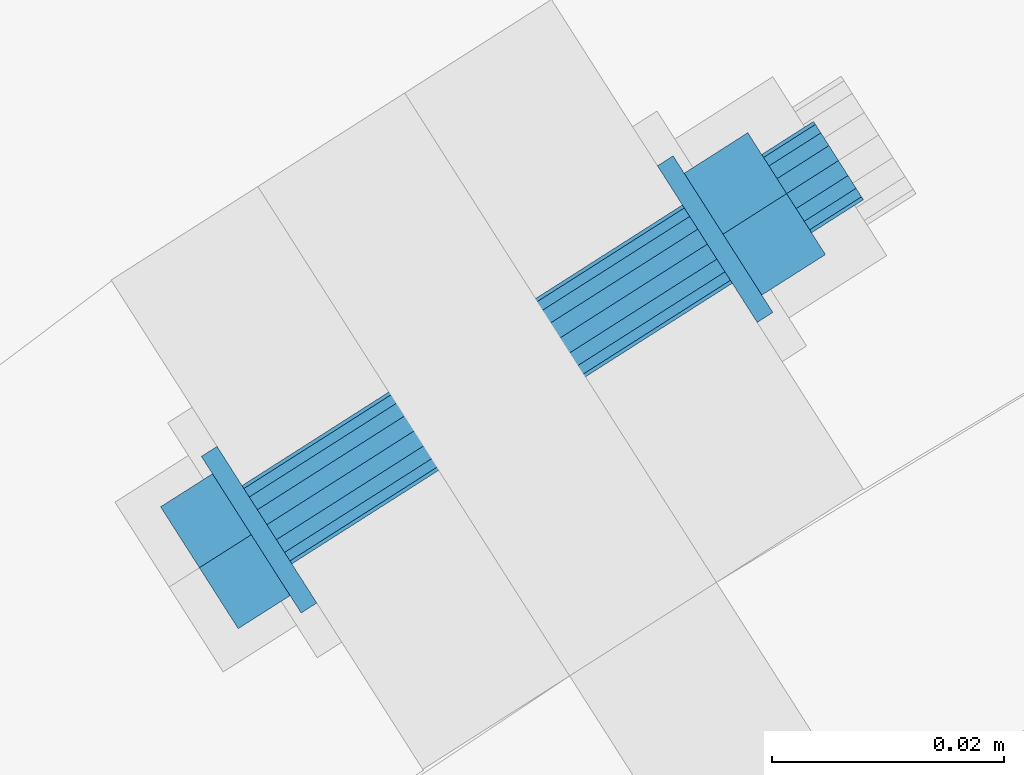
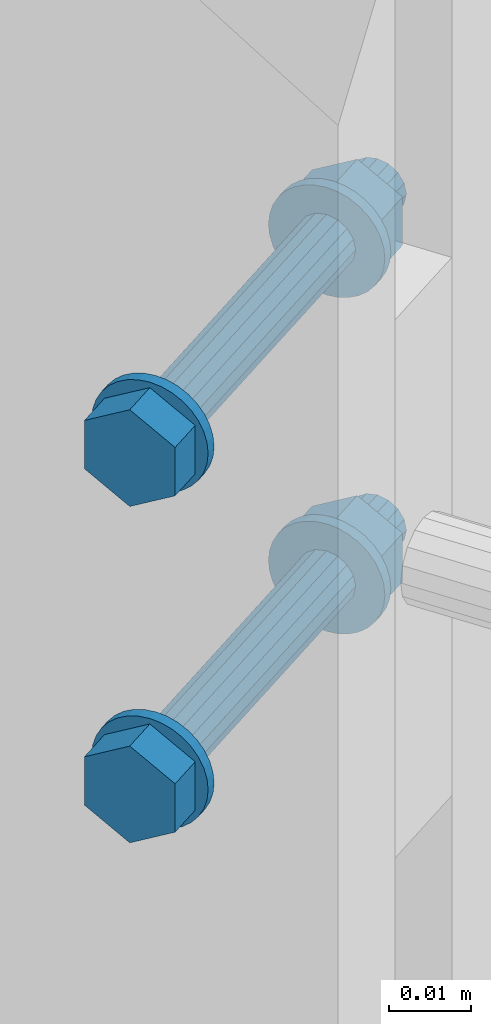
# One storey, part 257 of 296: 1 mechanical fastener.
"""IFC2X3 building model written with IfcOpenShell, lengths in millimetres."""

from ifc_helpers import new_model, entity, si_unit, converted_unit, origin_with_axes, place, context, project, spatial, faceted_brep, element, save


model = new_model("IFC2X3")

# Units and contexts
model_context = context("Model", 3, precision=1e-09, world=origin_with_axes())
ifc_project = project(units=[si_unit("LENGTHUNIT", "METRE", prefix="MILLI"), si_unit("AREAUNIT", "SQUARE_METRE"), si_unit("VOLUMEUNIT", "CUBIC_METRE"), converted_unit("PLANEANGLEUNIT", "DEGREE", entity("IfcPlaneAngleMeasure", 0.01745329), si_unit("PLANEANGLEUNIT", "RADIAN"), dimensions=[0, 0, 0, 0, 0, 0, 0])], contexts=[model_context])

# Site, building, storey
site_placement = place(None, origin_with_axes())
site = spatial("IfcSite", under=ifc_project, at=site_placement, Name="TZD-S?d | Treppenhausgel?nder", CompositionType="ELEMENT")
building_placement = place(site_placement, origin_with_axes())
building = spatial("IfcBuilding", under=site, at=building_placement, Name="Struktur 1", CompositionType="ELEMENT")
storey_placement = place(building_placement, origin_with_axes())
storey = spatial("IfcBuildingStorey", under=building, at=storey_placement, Name="Default Storey", CompositionType="ELEMENT", Elevation=0.0)

# Mechanical fastener
mechanical_fastener_placement = place(None, origin_with_axes())
element("IfcMechanicalFastener", 1, at=mechanical_fastener_placement, inside=storey, ObjectType="-", NominalDiameter=8.0, NominalLength=60.0, context=model_context, shape_type="Brep", body=[
    faceted_brep([(1293.850040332, 2415.538633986, 8170.000999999), (1295.199466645, 2416.398313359, 8170.000999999), (1295.282059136, 2416.268669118, 8168.440277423), (1293.932632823, 2415.408989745, 8168.440277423), (1295.526662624, 2415.88471855, 8166.93953254), (1294.177236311, 2415.025039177, 8166.93953254), (1295.923877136, 2415.26121666, 8165.556438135), (1294.574450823, 2414.401537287, 8165.556438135), (1296.45843794, 2414.422124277, 8164.34414575), (1295.109011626, 2413.562444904, 8164.34414575), (1297.109802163, 2413.399687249, 8163.349243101), (1295.76037585, 2412.540007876, 8163.349243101), (1297.852938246, 2412.233197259, 8162.609963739), (1296.503511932, 2411.373517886, 8162.609963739), (1298.659287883, 2410.967481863, 8162.154717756), (1297.30986157, 2410.107802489, 8162.154717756), (1299.497863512, 2409.651181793, 8162.000999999), (1298.148437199, 2408.791502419, 8162.000999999), (1300.336439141, 2408.334881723, 8162.154717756), (1298.987012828, 2407.475202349, 8162.154717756), (1301.142788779, 2407.069166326, 8162.609963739), (1299.793362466, 2406.209486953, 8162.609963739), (1301.885924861, 2405.902676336, 8163.349243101), (1300.536498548, 2405.042996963, 8163.349243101), (1302.537289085, 2404.880239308, 8164.34414575), (1301.187862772, 2404.020559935, 8164.34414575), (1303.071849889, 2404.041146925, 8165.556438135), (1301.722423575, 2403.181467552, 8165.556438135), (1303.4690644, 2403.417645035, 8166.93953254), (1302.119638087, 2402.557965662, 8166.93953254), (1303.713667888, 2403.033694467, 8168.440277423), (1302.364241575, 2402.174015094, 8168.440277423), (1303.796260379, 2402.904050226, 8170.000999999), (1302.446834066, 2402.044370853, 8170.000999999), (1303.713667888, 2403.033694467, 8171.561722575), (1302.364241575, 2402.174015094, 8171.561722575), (1303.4690644, 2403.417645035, 8173.062467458), (1302.119638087, 2402.557965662, 8173.062467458), (1303.071849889, 2404.041146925, 8174.445561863), (1301.722423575, 2403.181467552, 8174.445561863), (1302.537289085, 2404.880239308, 8175.657854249), (1301.187862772, 2404.020559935, 8175.657854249), (1301.885924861, 2405.902676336, 8176.652756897), (1300.536498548, 2405.042996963, 8176.652756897), (1301.142788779, 2407.069166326, 8177.392036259), (1299.793362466, 2406.209486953, 8177.392036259), (1300.336439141, 2408.334881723, 8177.847282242), (1298.987012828, 2407.475202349, 8177.847282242), (1299.497863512, 2409.651181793, 8178.000999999), (1298.148437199, 2408.791502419, 8178.000999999), (1298.659287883, 2410.967481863, 8177.847282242), (1297.30986157, 2410.107802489, 8177.847282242), (1297.852938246, 2412.233197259, 8177.392036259), (1296.503511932, 2411.373517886, 8177.392036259), (1297.109802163, 2413.399687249, 8176.652756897), (1295.76037585, 2412.540007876, 8176.652756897), (1296.45843794, 2414.422124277, 8175.657854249), (1295.109011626, 2413.562444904, 8175.657854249), (1295.923877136, 2415.26121666, 8174.445561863), (1294.574450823, 2414.401537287, 8174.445561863), (1295.526662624, 2415.88471855, 8173.062467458), (1294.177236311, 2415.025039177, 8173.062467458), (1295.282059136, 2416.268669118, 8171.561722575), (1293.932632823, 2415.408989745, 8171.561722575)], [[[0, 1, 2, 3]], [[3, 2, 4, 5]], [[5, 4, 6, 7]], [[7, 6, 8, 9]], [[9, 8, 10, 11]], [[11, 10, 12, 13]], [[13, 12, 14, 15]], [[15, 14, 16, 17]], [[17, 16, 18, 19]], [[19, 18, 20, 21]], [[21, 20, 22, 23]], [[23, 22, 24, 25]], [[25, 24, 26, 27]], [[27, 26, 28, 29]], [[29, 28, 30, 31]], [[31, 30, 32, 33]], [[33, 32, 34, 35]], [[35, 34, 36, 37]], [[37, 36, 38, 39]], [[39, 38, 40, 41]], [[41, 40, 42, 43]], [[43, 42, 44, 45]], [[45, 44, 46, 47]], [[47, 46, 48, 49]], [[49, 48, 50, 51]], [[51, 50, 52, 53]], [[53, 52, 54, 55]], [[55, 54, 56, 57]], [[57, 56, 58, 59]], [[59, 58, 60, 61]], [[61, 60, 62, 63]], [[63, 62, 1, 0]], [[0, 3, 5, 7, 9, 11, 13, 15, 17, 19, 21, 23, 25, 27, 29, 31, 33, 35, 37, 39, 41, 43, 45, 47, 49, 51, 53, 55, 57, 59, 61, 63]], [[1, 62, 60, 58, 56, 54, 52, 50, 48, 46, 44, 42, 40, 38, 36, 34, 32, 30, 28, 26, 24, 22, 20, 18, 16, 14, 12, 10, 8, 6, 4, 2]]]),
    faceted_brep([(1293.850040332, 2415.538633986, 8120.000999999), (1295.199466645, 2416.398313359, 8120.000999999), (1295.282059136, 2416.268669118, 8118.440277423), (1293.932632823, 2415.408989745, 8118.440277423), (1295.526662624, 2415.88471855, 8116.93953254), (1294.177236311, 2415.025039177, 8116.93953254), (1295.923877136, 2415.26121666, 8115.556438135), (1294.574450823, 2414.401537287, 8115.556438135), (1296.45843794, 2414.422124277, 8114.34414575), (1295.109011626, 2413.562444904, 8114.34414575), (1297.109802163, 2413.399687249, 8113.349243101), (1295.76037585, 2412.540007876, 8113.349243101), (1297.852938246, 2412.233197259, 8112.609963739), (1296.503511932, 2411.373517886, 8112.609963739), (1298.659287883, 2410.967481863, 8112.154717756), (1297.30986157, 2410.107802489, 8112.154717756), (1299.497863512, 2409.651181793, 8112.000999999), (1298.148437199, 2408.791502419, 8112.000999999), (1300.336439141, 2408.334881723, 8112.154717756), (1298.987012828, 2407.475202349, 8112.154717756), (1301.142788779, 2407.069166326, 8112.609963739), (1299.793362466, 2406.209486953, 8112.609963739), (1301.885924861, 2405.902676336, 8113.349243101), (1300.536498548, 2405.042996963, 8113.349243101), (1302.537289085, 2404.880239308, 8114.34414575), (1301.187862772, 2404.020559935, 8114.34414575), (1303.071849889, 2404.041146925, 8115.556438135), (1301.722423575, 2403.181467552, 8115.556438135), (1303.4690644, 2403.417645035, 8116.93953254), (1302.119638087, 2402.557965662, 8116.93953254), (1303.713667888, 2403.033694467, 8118.440277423), (1302.364241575, 2402.174015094, 8118.440277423), (1303.796260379, 2402.904050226, 8120.000999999), (1302.446834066, 2402.044370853, 8120.000999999), (1303.713667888, 2403.033694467, 8121.561722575), (1302.364241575, 2402.174015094, 8121.561722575), (1303.4690644, 2403.417645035, 8123.062467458), (1302.119638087, 2402.557965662, 8123.062467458), (1303.071849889, 2404.041146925, 8124.445561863), (1301.722423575, 2403.181467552, 8124.445561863), (1302.537289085, 2404.880239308, 8125.657854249), (1301.187862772, 2404.020559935, 8125.657854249), (1301.885924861, 2405.902676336, 8126.652756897), (1300.536498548, 2405.042996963, 8126.652756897), (1301.142788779, 2407.069166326, 8127.392036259), (1299.793362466, 2406.209486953, 8127.392036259), (1300.336439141, 2408.334881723, 8127.847282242), (1298.987012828, 2407.475202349, 8127.847282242), (1299.497863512, 2409.651181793, 8128.000999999), (1298.148437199, 2408.791502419, 8128.000999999), (1298.659287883, 2410.967481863, 8127.847282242), (1297.30986157, 2410.107802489, 8127.847282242), (1297.852938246, 2412.233197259, 8127.392036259), (1296.503511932, 2411.373517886, 8127.392036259), (1297.109802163, 2413.399687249, 8126.652756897), (1295.76037585, 2412.540007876, 8126.652756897), (1296.45843794, 2414.422124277, 8125.657854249), (1295.109011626, 2413.562444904, 8125.657854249), (1295.923877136, 2415.26121666, 8124.445561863), (1294.574450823, 2414.401537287, 8124.445561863), (1295.526662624, 2415.88471855, 8123.062467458), (1294.177236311, 2415.025039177, 8123.062467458), (1295.282059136, 2416.268669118, 8121.561722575), (1293.932632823, 2415.408989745, 8121.561722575)], [[[0, 1, 2, 3]], [[3, 2, 4, 5]], [[5, 4, 6, 7]], [[7, 6, 8, 9]], [[9, 8, 10, 11]], [[11, 10, 12, 13]], [[13, 12, 14, 15]], [[15, 14, 16, 17]], [[17, 16, 18, 19]], [[19, 18, 20, 21]], [[21, 20, 22, 23]], [[23, 22, 24, 25]], [[25, 24, 26, 27]], [[27, 26, 28, 29]], [[29, 28, 30, 31]], [[31, 30, 32, 33]], [[33, 32, 34, 35]], [[35, 34, 36, 37]], [[37, 36, 38, 39]], [[39, 38, 40, 41]], [[41, 40, 42, 43]], [[43, 42, 44, 45]], [[45, 44, 46, 47]], [[47, 46, 48, 49]], [[49, 48, 50, 51]], [[51, 50, 52, 53]], [[53, 52, 54, 55]], [[55, 54, 56, 57]], [[57, 56, 58, 59]], [[59, 58, 60, 61]], [[61, 60, 62, 63]], [[63, 62, 1, 0]], [[0, 3, 5, 7, 9, 11, 13, 15, 17, 19, 21, 23, 25, 27, 29, 31, 33, 35, 37, 39, 41, 43, 45, 47, 49, 51, 53, 55, 57, 59, 61, 63]], [[1, 62, 60, 58, 56, 54, 52, 50, 48, 46, 44, 42, 40, 38, 36, 34, 32, 30, 28, 26, 24, 22, 20, 18, 16, 14, 12, 10, 8, 6, 4, 2]]]),
    faceted_brep([(1301.494052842, 2403.539937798, 8166.405999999), (1297.024078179, 2400.692249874, 8166.405999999), (1293.678462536, 2405.943814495, 8162.810999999), (1298.148437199, 2408.791502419, 8162.810999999), (1290.332846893, 2411.195379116, 8166.405999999), (1294.802821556, 2414.043067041, 8166.405999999), (1290.332846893, 2411.195379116, 8173.595999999), (1294.802821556, 2414.043067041, 8173.595999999), (1293.678462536, 2405.943814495, 8177.190999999), (1298.148437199, 2408.791502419, 8177.190999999), (1297.024078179, 2400.692249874, 8173.595999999), (1301.494052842, 2403.539937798, 8173.595999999)], [[[0, 1, 2, 3]], [[3, 2, 4, 5]], [[5, 4, 6, 7]], [[7, 6, 8, 9]], [[9, 8, 10, 11]], [[11, 10, 1, 0]], [[4, 2, 1, 10, 8, 6]], [[0, 3, 5, 7, 9, 11]]]),
    faceted_brep([(1301.494052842, 2403.539937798, 8116.405999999), (1297.024078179, 2400.692249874, 8116.405999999), (1293.678462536, 2405.943814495, 8112.810999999), (1298.148437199, 2408.791502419, 8112.810999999), (1290.332846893, 2411.195379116, 8116.405999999), (1294.802821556, 2414.043067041, 8116.405999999), (1290.332846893, 2411.195379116, 8123.595999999), (1294.802821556, 2414.043067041, 8123.595999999), (1293.678462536, 2405.943814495, 8127.190999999), (1298.148437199, 2408.791502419, 8127.190999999), (1297.024078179, 2400.692249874, 8123.595999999), (1301.494052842, 2403.539937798, 8123.595999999)], [[[0, 1, 2, 3]], [[3, 2, 4, 5]], [[5, 4, 6, 7]], [[7, 6, 8, 9]], [[9, 8, 10, 11]], [[11, 10, 1, 0]], [[4, 2, 1, 10, 8, 6]], [[0, 3, 5, 7, 9, 11]]]),
    faceted_brep([(1297.348665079, 2413.024747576, 8170.000999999), (1335.30128014, 2437.203229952, 8170.000999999), (1335.46487813, 2436.946432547, 8168.47026627), (1297.512263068, 2412.767950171, 8168.47026627), (1335.930765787, 2436.21513541, 8167.172572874), (1297.978150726, 2412.036653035, 8167.172572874), (1336.62801594, 2435.120671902, 8166.305481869), (1298.675400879, 2410.942189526, 8166.305481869), (1337.450478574, 2433.829664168, 8166.000999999), (1299.497863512, 2409.651181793, 8166.000999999), (1338.272941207, 2432.538656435, 8166.305481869), (1300.320326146, 2408.360174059, 8166.305481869), (1338.97019136, 2431.444192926, 8167.172572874), (1301.017576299, 2407.265710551, 8167.172572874), (1339.436079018, 2430.71289579, 8168.47026627), (1301.483463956, 2406.534413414, 8168.47026627), (1339.599677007, 2430.456098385, 8170.000999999), (1301.647061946, 2406.277616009, 8170.000999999), (1339.436079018, 2430.71289579, 8171.531733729), (1301.483463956, 2406.534413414, 8171.531733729), (1338.97019136, 2431.444192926, 8172.829427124), (1301.017576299, 2407.265710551, 8172.829427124), (1338.272941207, 2432.538656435, 8173.696518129), (1300.320326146, 2408.360174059, 8173.696518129), (1337.450478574, 2433.829664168, 8174.000999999), (1299.497863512, 2409.651181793, 8174.000999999), (1336.62801594, 2435.120671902, 8173.696518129), (1298.675400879, 2410.942189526, 8173.696518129), (1335.930765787, 2436.21513541, 8172.829427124), (1297.978150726, 2412.036653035, 8172.829427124), (1335.46487813, 2436.946432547, 8171.531733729), (1297.512263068, 2412.767950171, 8171.531733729)], [[[0, 1, 2, 3]], [[3, 2, 4, 5]], [[5, 4, 6, 7]], [[7, 6, 8, 9]], [[9, 8, 10, 11]], [[11, 10, 12, 13]], [[13, 12, 14, 15]], [[15, 14, 16, 17]], [[17, 16, 18, 19]], [[19, 18, 20, 21]], [[21, 20, 22, 23]], [[23, 22, 24, 25]], [[25, 24, 26, 27]], [[27, 26, 28, 29]], [[29, 28, 30, 31]], [[31, 30, 1, 0]], [[0, 3, 5, 7, 9, 11, 13, 15, 17, 19, 21, 23, 25, 27, 29, 31]], [[1, 30, 28, 26, 24, 22, 20, 18, 16, 14, 12, 10, 8, 6, 4, 2]]]),
    faceted_brep([(1297.348665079, 2413.024747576, 8120.000999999), (1335.30128014, 2437.203229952, 8120.000999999), (1335.46487813, 2436.946432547, 8118.47026627), (1297.512263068, 2412.767950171, 8118.47026627), (1335.930765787, 2436.21513541, 8117.172572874), (1297.978150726, 2412.036653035, 8117.172572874), (1336.62801594, 2435.120671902, 8116.305481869), (1298.675400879, 2410.942189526, 8116.305481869), (1337.450478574, 2433.829664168, 8116.000999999), (1299.497863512, 2409.651181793, 8116.000999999), (1338.272941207, 2432.538656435, 8116.305481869), (1300.320326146, 2408.360174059, 8116.305481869), (1338.97019136, 2431.444192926, 8117.172572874), (1301.017576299, 2407.265710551, 8117.172572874), (1339.436079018, 2430.71289579, 8118.47026627), (1301.483463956, 2406.534413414, 8118.47026627), (1339.599677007, 2430.456098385, 8120.000999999), (1301.647061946, 2406.277616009, 8120.000999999), (1339.436079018, 2430.71289579, 8121.531733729), (1301.483463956, 2406.534413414, 8121.531733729), (1338.97019136, 2431.444192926, 8122.829427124), (1301.017576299, 2407.265710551, 8122.829427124), (1338.272941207, 2432.538656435, 8123.696518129), (1300.320326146, 2408.360174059, 8123.696518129), (1337.450478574, 2433.829664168, 8124.000999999), (1299.497863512, 2409.651181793, 8124.000999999), (1336.62801594, 2435.120671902, 8123.696518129), (1298.675400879, 2410.942189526, 8123.696518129), (1335.930765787, 2436.21513541, 8122.829427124), (1297.978150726, 2412.036653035, 8122.829427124), (1335.46487813, 2436.946432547, 8121.531733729), (1297.512263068, 2412.767950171, 8121.531733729)], [[[0, 1, 2, 3]], [[3, 2, 4, 5]], [[5, 4, 6, 7]], [[7, 6, 8, 9]], [[9, 8, 10, 11]], [[11, 10, 12, 13]], [[13, 12, 14, 15]], [[15, 14, 16, 17]], [[17, 16, 18, 19]], [[19, 18, 20, 21]], [[21, 20, 22, 23]], [[23, 22, 24, 25]], [[25, 24, 26, 27]], [[27, 26, 28, 29]], [[29, 28, 30, 31]], [[31, 30, 1, 0]], [[0, 3, 5, 7, 9, 11, 13, 15, 17, 19, 21, 23, 25, 27, 29, 31]], [[1, 30, 28, 26, 24, 22, 20, 18, 16, 14, 12, 10, 8, 6, 4, 2]]]),
    faceted_brep([(1333.152081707, 2440.576795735, 8170.000999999), (1334.50150802, 2441.436475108, 8170.000999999), (1334.584100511, 2441.306830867, 8168.440277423), (1333.234674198, 2440.447151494, 8168.440277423), (1334.828703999, 2440.922880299, 8166.93953254), (1333.479277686, 2440.063200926, 8166.93953254), (1335.225918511, 2440.299378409, 8165.556438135), (1333.876492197, 2439.439699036, 8165.556438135), (1335.760479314, 2439.460286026, 8164.34414575), (1334.411053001, 2438.600606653, 8164.34414575), (1336.411843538, 2438.437848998, 8163.349243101), (1335.062417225, 2437.578169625, 8163.349243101), (1337.15497962, 2437.271359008, 8162.609963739), (1335.805553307, 2436.411679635, 8162.609963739), (1337.961329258, 2436.005643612, 8162.154717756), (1336.611902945, 2435.145964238, 8162.154717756), (1338.799904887, 2434.689343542, 8162.000999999), (1337.450478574, 2433.829664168, 8162.000999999), (1339.638480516, 2433.373043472, 8162.154717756), (1338.289054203, 2432.513364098, 8162.154717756), (1340.444830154, 2432.107328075, 8162.609963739), (1339.09540384, 2431.247648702, 8162.609963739), (1341.187966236, 2430.940838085, 8163.349243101), (1339.838539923, 2430.081158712, 8163.349243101), (1341.83933046, 2429.918401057, 8164.34414575), (1340.489904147, 2429.058721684, 8164.34414575), (1342.373891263, 2429.079308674, 8165.556438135), (1341.02446495, 2428.219629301, 8165.556438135), (1342.771105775, 2428.455806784, 8166.93953254), (1341.421679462, 2427.596127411, 8166.93953254), (1343.015709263, 2428.071856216, 8168.440277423), (1341.66628295, 2427.212176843, 8168.440277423), (1343.098301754, 2427.942211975, 8170.000999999), (1341.748875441, 2427.082532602, 8170.000999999), (1343.015709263, 2428.071856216, 8171.561722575), (1341.66628295, 2427.212176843, 8171.561722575), (1342.771105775, 2428.455806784, 8173.062467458), (1341.421679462, 2427.596127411, 8173.062467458), (1342.373891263, 2429.079308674, 8174.445561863), (1341.02446495, 2428.219629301, 8174.445561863), (1341.83933046, 2429.918401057, 8175.657854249), (1340.489904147, 2429.058721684, 8175.657854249), (1341.187966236, 2430.940838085, 8176.652756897), (1339.838539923, 2430.081158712, 8176.652756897), (1340.444830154, 2432.107328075, 8177.392036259), (1339.09540384, 2431.247648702, 8177.392036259), (1339.638480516, 2433.373043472, 8177.847282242), (1338.289054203, 2432.513364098, 8177.847282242), (1338.799904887, 2434.689343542, 8178.000999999), (1337.450478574, 2433.829664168, 8178.000999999), (1337.961329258, 2436.005643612, 8177.847282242), (1336.611902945, 2435.145964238, 8177.847282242), (1337.15497962, 2437.271359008, 8177.392036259), (1335.805553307, 2436.411679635, 8177.392036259), (1336.411843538, 2438.437848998, 8176.652756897), (1335.062417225, 2437.578169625, 8176.652756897), (1335.760479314, 2439.460286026, 8175.657854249), (1334.411053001, 2438.600606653, 8175.657854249), (1335.225918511, 2440.299378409, 8174.445561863), (1333.876492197, 2439.439699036, 8174.445561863), (1334.828703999, 2440.922880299, 8173.062467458), (1333.479277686, 2440.063200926, 8173.062467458), (1334.584100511, 2441.306830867, 8171.561722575), (1333.234674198, 2440.447151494, 8171.561722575)], [[[0, 1, 2, 3]], [[3, 2, 4, 5]], [[5, 4, 6, 7]], [[7, 6, 8, 9]], [[9, 8, 10, 11]], [[11, 10, 12, 13]], [[13, 12, 14, 15]], [[15, 14, 16, 17]], [[17, 16, 18, 19]], [[19, 18, 20, 21]], [[21, 20, 22, 23]], [[23, 22, 24, 25]], [[25, 24, 26, 27]], [[27, 26, 28, 29]], [[29, 28, 30, 31]], [[31, 30, 32, 33]], [[33, 32, 34, 35]], [[35, 34, 36, 37]], [[37, 36, 38, 39]], [[39, 38, 40, 41]], [[41, 40, 42, 43]], [[43, 42, 44, 45]], [[45, 44, 46, 47]], [[47, 46, 48, 49]], [[49, 48, 50, 51]], [[51, 50, 52, 53]], [[53, 52, 54, 55]], [[55, 54, 56, 57]], [[57, 56, 58, 59]], [[59, 58, 60, 61]], [[61, 60, 62, 63]], [[63, 62, 1, 0]], [[0, 3, 5, 7, 9, 11, 13, 15, 17, 19, 21, 23, 25, 27, 29, 31, 33, 35, 37, 39, 41, 43, 45, 47, 49, 51, 53, 55, 57, 59, 61, 63]], [[1, 62, 60, 58, 56, 54, 52, 50, 48, 46, 44, 42, 40, 38, 36, 34, 32, 30, 28, 26, 24, 22, 20, 18, 16, 14, 12, 10, 8, 6, 4, 2]]]),
    faceted_brep([(1333.152081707, 2440.576795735, 8120.000999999), (1334.50150802, 2441.436475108, 8120.000999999), (1334.584100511, 2441.306830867, 8118.440277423), (1333.234674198, 2440.447151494, 8118.440277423), (1334.828703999, 2440.922880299, 8116.93953254), (1333.479277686, 2440.063200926, 8116.93953254), (1335.225918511, 2440.299378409, 8115.556438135), (1333.876492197, 2439.439699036, 8115.556438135), (1335.760479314, 2439.460286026, 8114.34414575), (1334.411053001, 2438.600606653, 8114.34414575), (1336.411843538, 2438.437848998, 8113.349243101), (1335.062417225, 2437.578169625, 8113.349243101), (1337.15497962, 2437.271359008, 8112.609963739), (1335.805553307, 2436.411679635, 8112.609963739), (1337.961329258, 2436.005643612, 8112.154717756), (1336.611902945, 2435.145964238, 8112.154717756), (1338.799904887, 2434.689343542, 8112.000999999), (1337.450478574, 2433.829664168, 8112.000999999), (1339.638480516, 2433.373043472, 8112.154717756), (1338.289054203, 2432.513364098, 8112.154717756), (1340.444830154, 2432.107328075, 8112.609963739), (1339.09540384, 2431.247648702, 8112.609963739), (1341.187966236, 2430.940838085, 8113.349243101), (1339.838539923, 2430.081158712, 8113.349243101), (1341.83933046, 2429.918401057, 8114.34414575), (1340.489904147, 2429.058721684, 8114.34414575), (1342.373891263, 2429.079308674, 8115.556438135), (1341.02446495, 2428.219629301, 8115.556438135), (1342.771105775, 2428.455806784, 8116.93953254), (1341.421679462, 2427.596127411, 8116.93953254), (1343.015709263, 2428.071856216, 8118.440277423), (1341.66628295, 2427.212176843, 8118.440277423), (1343.098301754, 2427.942211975, 8120.000999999), (1341.748875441, 2427.082532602, 8120.000999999), (1343.015709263, 2428.071856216, 8121.561722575), (1341.66628295, 2427.212176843, 8121.561722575), (1342.771105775, 2428.455806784, 8123.062467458), (1341.421679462, 2427.596127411, 8123.062467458), (1342.373891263, 2429.079308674, 8124.445561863), (1341.02446495, 2428.219629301, 8124.445561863), (1341.83933046, 2429.918401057, 8125.657854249), (1340.489904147, 2429.058721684, 8125.657854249), (1341.187966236, 2430.940838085, 8126.652756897), (1339.838539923, 2430.081158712, 8126.652756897), (1340.444830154, 2432.107328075, 8127.392036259), (1339.09540384, 2431.247648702, 8127.392036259), (1339.638480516, 2433.373043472, 8127.847282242), (1338.289054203, 2432.513364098, 8127.847282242), (1338.799904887, 2434.689343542, 8128.000999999), (1337.450478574, 2433.829664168, 8128.000999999), (1337.961329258, 2436.005643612, 8127.847282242), (1336.611902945, 2435.145964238, 8127.847282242), (1337.15497962, 2437.271359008, 8127.392036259), (1335.805553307, 2436.411679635, 8127.392036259), (1336.411843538, 2438.437848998, 8126.652756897), (1335.062417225, 2437.578169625, 8126.652756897), (1335.760479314, 2439.460286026, 8125.657854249), (1334.411053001, 2438.600606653, 8125.657854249), (1335.225918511, 2440.299378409, 8124.445561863), (1333.876492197, 2439.439699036, 8124.445561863), (1334.828703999, 2440.922880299, 8123.062467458), (1333.479277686, 2440.063200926, 8123.062467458), (1334.584100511, 2441.306830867, 8121.561722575), (1333.234674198, 2440.447151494, 8121.561722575)], [[[0, 1, 2, 3]], [[3, 2, 4, 5]], [[5, 4, 6, 7]], [[7, 6, 8, 9]], [[9, 8, 10, 11]], [[11, 10, 12, 13]], [[13, 12, 14, 15]], [[15, 14, 16, 17]], [[17, 16, 18, 19]], [[19, 18, 20, 21]], [[21, 20, 22, 23]], [[23, 22, 24, 25]], [[25, 24, 26, 27]], [[27, 26, 28, 29]], [[29, 28, 30, 31]], [[31, 30, 32, 33]], [[33, 32, 34, 35]], [[35, 34, 36, 37]], [[37, 36, 38, 39]], [[39, 38, 40, 41]], [[41, 40, 42, 43]], [[43, 42, 44, 45]], [[45, 44, 46, 47]], [[47, 46, 48, 49]], [[49, 48, 50, 51]], [[51, 50, 52, 53]], [[53, 52, 54, 55]], [[55, 54, 56, 57]], [[57, 56, 58, 59]], [[59, 58, 60, 61]], [[61, 60, 62, 63]], [[63, 62, 1, 0]], [[0, 3, 5, 7, 9, 11, 13, 15, 17, 19, 21, 23, 25, 27, 29, 31, 33, 35, 37, 39, 41, 43, 45, 47, 49, 51, 53, 55, 57, 59, 61, 63]], [[1, 62, 60, 58, 56, 54, 52, 50, 48, 46, 44, 42, 40, 38, 36, 34, 32, 30, 28, 26, 24, 22, 20, 18, 16, 14, 12, 10, 8, 6, 4, 2]]]),
    faceted_brep([(1347.627564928, 2432.930226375, 8166.405999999), (1342.14552053, 2429.437778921, 8166.405999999), (1338.799904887, 2434.689343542, 8162.810999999), (1344.281949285, 2438.181790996, 8162.810999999), (1335.454289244, 2439.940908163, 8166.405999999), (1340.936333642, 2443.433355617, 8166.405999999), (1335.454289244, 2439.940908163, 8173.595999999), (1340.936333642, 2443.433355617, 8173.595999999), (1338.799904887, 2434.689343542, 8177.190999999), (1344.281949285, 2438.181790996, 8177.190999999), (1342.14552053, 2429.437778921, 8173.595999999), (1347.627564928, 2432.930226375, 8173.595999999)], [[[0, 1, 2, 3]], [[3, 2, 4, 5]], [[5, 4, 6, 7]], [[7, 6, 8, 9]], [[9, 8, 10, 11]], [[11, 10, 1, 0]], [[4, 2, 1, 10, 8, 6]], [[0, 3, 5, 7, 9, 11]]]),
    faceted_brep([(1347.627564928, 2432.930226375, 8116.405999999), (1342.14552053, 2429.437778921, 8116.405999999), (1338.799904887, 2434.689343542, 8112.810999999), (1344.281949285, 2438.181790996, 8112.810999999), (1335.454289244, 2439.940908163, 8116.405999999), (1340.936333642, 2443.433355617, 8116.405999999), (1335.454289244, 2439.940908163, 8123.595999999), (1340.936333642, 2443.433355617, 8123.595999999), (1338.799904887, 2434.689343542, 8127.190999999), (1344.281949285, 2438.181790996, 8127.190999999), (1342.14552053, 2429.437778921, 8123.595999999), (1347.627564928, 2432.930226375, 8123.595999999)], [[[0, 1, 2, 3]], [[3, 2, 4, 5]], [[5, 4, 6, 7]], [[7, 6, 8, 9]], [[9, 8, 10, 11]], [[11, 10, 1, 0]], [[4, 2, 1, 10, 8, 6]], [[0, 3, 5, 7, 9, 11]]]),
    faceted_brep([(1342.132750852, 2441.555356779, 8170.000999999), (1346.602725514, 2444.403044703, 8170.000999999), (1346.766323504, 2444.146247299, 8168.47026627), (1342.296348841, 2441.298559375, 8168.47026627), (1347.232211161, 2443.414950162, 8167.172572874), (1342.762236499, 2440.567262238, 8167.172572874), (1347.929461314, 2442.320486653, 8166.305481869), (1343.459486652, 2439.472798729, 8166.305481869), (1348.751923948, 2441.02947892, 8166.000999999), (1344.281949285, 2438.181790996, 8166.000999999), (1349.574386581, 2439.738471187, 8166.305481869), (1345.104411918, 2436.890783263, 8166.305481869), (1350.271636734, 2438.644007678, 8167.172572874), (1345.801662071, 2435.796319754, 8167.172572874), (1350.737524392, 2437.912710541, 8168.47026627), (1346.267549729, 2435.065022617, 8168.47026627), (1350.901122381, 2437.655913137, 8170.000999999), (1346.431147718, 2434.808225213, 8170.000999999), (1350.737524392, 2437.912710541, 8171.531733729), (1346.267549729, 2435.065022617, 8171.531733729), (1350.271636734, 2438.644007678, 8172.829427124), (1345.801662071, 2435.796319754, 8172.829427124), (1349.574386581, 2439.738471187, 8173.696518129), (1345.104411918, 2436.890783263, 8173.696518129), (1348.751923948, 2441.02947892, 8174.000999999), (1344.281949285, 2438.181790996, 8174.000999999), (1347.929461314, 2442.320486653, 8173.696518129), (1343.459486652, 2439.472798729, 8173.696518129), (1347.232211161, 2443.414950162, 8172.829427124), (1342.762236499, 2440.567262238, 8172.829427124), (1346.766323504, 2444.146247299, 8171.531733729), (1342.296348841, 2441.298559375, 8171.531733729)], [[[0, 1, 2, 3]], [[3, 2, 4, 5]], [[5, 4, 6, 7]], [[7, 6, 8, 9]], [[9, 8, 10, 11]], [[11, 10, 12, 13]], [[13, 12, 14, 15]], [[15, 14, 16, 17]], [[17, 16, 18, 19]], [[19, 18, 20, 21]], [[21, 20, 22, 23]], [[23, 22, 24, 25]], [[25, 24, 26, 27]], [[27, 26, 28, 29]], [[29, 28, 30, 31]], [[31, 30, 1, 0]], [[0, 3, 5, 7, 9, 11, 13, 15, 17, 19, 21, 23, 25, 27, 29, 31]], [[1, 30, 28, 26, 24, 22, 20, 18, 16, 14, 12, 10, 8, 6, 4, 2]]]),
    faceted_brep([(1342.132750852, 2441.555356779, 8120.000999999), (1346.602725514, 2444.403044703, 8120.000999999), (1346.766323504, 2444.146247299, 8118.47026627), (1342.296348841, 2441.298559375, 8118.47026627), (1347.232211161, 2443.414950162, 8117.172572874), (1342.762236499, 2440.567262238, 8117.172572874), (1347.929461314, 2442.320486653, 8116.305481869), (1343.459486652, 2439.472798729, 8116.305481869), (1348.751923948, 2441.02947892, 8116.000999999), (1344.281949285, 2438.181790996, 8116.000999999), (1349.574386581, 2439.738471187, 8116.305481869), (1345.104411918, 2436.890783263, 8116.305481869), (1350.271636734, 2438.644007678, 8117.172572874), (1345.801662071, 2435.796319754, 8117.172572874), (1350.737524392, 2437.912710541, 8118.47026627), (1346.267549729, 2435.065022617, 8118.47026627), (1350.901122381, 2437.655913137, 8120.000999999), (1346.431147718, 2434.808225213, 8120.000999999), (1350.737524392, 2437.912710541, 8121.531733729), (1346.267549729, 2435.065022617, 8121.531733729), (1350.271636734, 2438.644007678, 8122.829427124), (1345.801662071, 2435.796319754, 8122.829427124), (1349.574386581, 2439.738471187, 8123.696518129), (1345.104411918, 2436.890783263, 8123.696518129), (1348.751923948, 2441.02947892, 8124.000999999), (1344.281949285, 2438.181790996, 8124.000999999), (1347.929461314, 2442.320486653, 8123.696518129), (1343.459486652, 2439.472798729, 8123.696518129), (1347.232211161, 2443.414950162, 8122.829427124), (1342.762236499, 2440.567262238, 8122.829427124), (1346.766323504, 2444.146247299, 8121.531733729), (1342.296348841, 2441.298559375, 8121.531733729)], [[[0, 1, 2, 3]], [[3, 2, 4, 5]], [[5, 4, 6, 7]], [[7, 6, 8, 9]], [[9, 8, 10, 11]], [[11, 10, 12, 13]], [[13, 12, 14, 15]], [[15, 14, 16, 17]], [[17, 16, 18, 19]], [[19, 18, 20, 21]], [[21, 20, 22, 23]], [[23, 22, 24, 25]], [[25, 24, 26, 27]], [[27, 26, 28, 29]], [[29, 28, 30, 31]], [[31, 30, 1, 0]], [[0, 3, 5, 7, 9, 11, 13, 15, 17, 19, 21, 23, 25, 27, 29, 31]], [[1, 30, 28, 26, 24, 22, 20, 18, 16, 14, 12, 10, 8, 6, 4, 2]]]),
])

save(model, "model.ifc")
